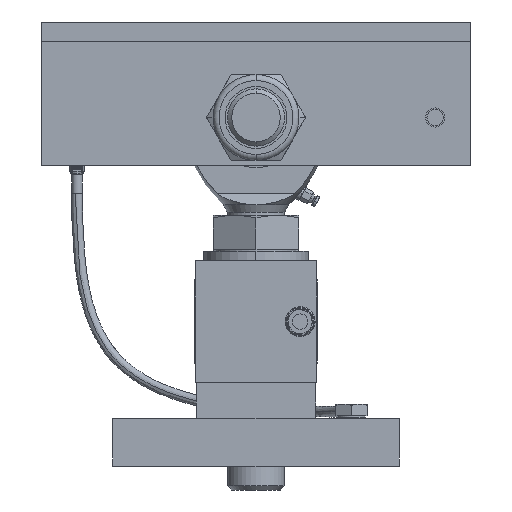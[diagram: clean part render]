
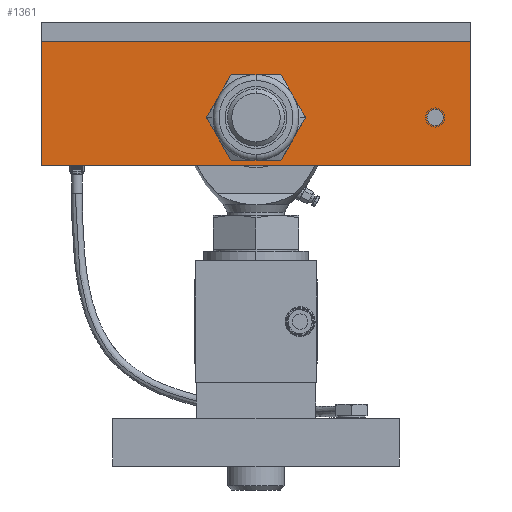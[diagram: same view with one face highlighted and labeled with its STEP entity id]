
A CAD part, front view. The second image highlights one B-rep face of the part: STEP entity #1361.
In plain terms, the highlighted planar face has unit normal (0, -1, 0).
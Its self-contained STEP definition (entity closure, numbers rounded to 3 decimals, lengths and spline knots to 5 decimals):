
#1361=ADVANCED_FACE('154:5',(#2255,#2256,#2257),#2258,.T.);
#2255=FACE_BOUND('',#9985,.T.);
#2256=FACE_BOUND('',#9986,.T.);
#2257=FACE_OUTER_BOUND('',#9987,.T.);
#2258=PLANE('',#9988);
#9985=EDGE_LOOP('',(#12439,#12440));
#9986=EDGE_LOOP('',(#12441,#12442));
#9987=EDGE_LOOP('',(#12443,#12444,#12445,#12446));
#9988=AXIS2_PLACEMENT_3D('',#12447,#12448,#12449);
#12439=ORIENTED_EDGE('',*,*,#15359,.F.);
#12440=ORIENTED_EDGE('',*,*,#15380,.F.);
#12441=ORIENTED_EDGE('',*,*,#15363,.T.);
#12442=ORIENTED_EDGE('',*,*,#15381,.T.);
#12443=ORIENTED_EDGE('',*,*,#15375,.T.);
#12444=ORIENTED_EDGE('',*,*,#15382,.F.);
#12445=ORIENTED_EDGE('',*,*,#15383,.F.);
#12446=ORIENTED_EDGE('',*,*,#15384,.T.);
#12447=CARTESIAN_POINT('',(0.0,-0.004,0.0));
#12448=DIRECTION('',(0.0,-1.0,0.0));
#12449=DIRECTION('',(1.0,0.0,-0.0));
#15359=EDGE_CURVE('154:14',#17196,#17192,#17198,.T.);
#15363=EDGE_CURVE('152:295',#17200,#17204,#17206,.T.);
#15375=EDGE_CURVE('151:863',#17226,#17227,#17228,.T.);
#15380=EDGE_CURVE('154:14',#17192,#17196,#17235,.T.);
#15381=EDGE_CURVE('152:295',#17204,#17200,#17236,.T.);
#15382=EDGE_CURVE('150:566',#17237,#17227,#17238,.T.);
#15383=EDGE_CURVE('149:929',#17239,#17237,#17240,.T.);
#15384=EDGE_CURVE('150:556',#17239,#17226,#17241,.T.);
#17192=VERTEX_POINT('',#20797);
#17196=VERTEX_POINT('',#20802);
#17198=CIRCLE('',#20805,0.0125);
#17200=VERTEX_POINT('',#20807);
#17204=VERTEX_POINT('',#20812);
#17206=CIRCLE('',#20815,0.0034);
#17226=VERTEX_POINT('',#20841);
#17227=VERTEX_POINT('',#20842);
#17228=LINE('',#20843,#20844);
#17235=CIRCLE('',#20854,0.0125);
#17236=CIRCLE('',#20855,0.0034);
#17237=VERTEX_POINT('',#20856);
#17238=LINE('',#20857,#20858);
#17239=VERTEX_POINT('',#20859);
#17240=LINE('',#20860,#20861);
#17241=LINE('',#20862,#20863);
#20797=CARTESIAN_POINT('',(0.0125,-0.004,0.02));
#20802=CARTESIAN_POINT('',(-0.0125,-0.004,0.02));
#20805=AXIS2_PLACEMENT_3D('',#23890,#23891,#23892);
#20807=CARTESIAN_POINT('',(0.0716,-0.004,0.02));
#20812=CARTESIAN_POINT('',(0.0784,-0.004,0.02));
#20815=AXIS2_PLACEMENT_3D('',#23898,#23899,#23900);
#20841=CARTESIAN_POINT('',(0.09,-0.004,0.052));
#20842=CARTESIAN_POINT('',(-0.09,-0.004,0.052));
#20843=CARTESIAN_POINT('',(0.09,-0.004,0.052));
#20844=VECTOR('',#23922,1.0);
#20854=AXIS2_PLACEMENT_3D('',#23929,#23930,#23931);
#20855=AXIS2_PLACEMENT_3D('',#23932,#23933,#23934);
#20856=CARTESIAN_POINT('',(-0.09,-0.004,0.0));
#20857=CARTESIAN_POINT('',(-0.09,-0.004,0.0));
#20858=VECTOR('',#23935,1.0);
#20859=CARTESIAN_POINT('',(0.09,-0.004,0.0));
#20860=CARTESIAN_POINT('',(0.09,-0.004,0.0));
#20861=VECTOR('',#23936,1.0);
#20862=CARTESIAN_POINT('',(0.09,-0.004,0.0));
#20863=VECTOR('',#23937,1.0);
#23890=CARTESIAN_POINT('',(0.0,-0.004,0.02));
#23891=DIRECTION('',(0.0,-1.0,0.0));
#23892=DIRECTION('',(1.0,0.0,0.0));
#23898=CARTESIAN_POINT('',(0.075,-0.004,0.02));
#23899=DIRECTION('',(0.0,1.0,-0.0));
#23900=DIRECTION('',(-1.0,0.0,0.0));
#23922=DIRECTION('',(-1.0,0.0,0.0));
#23929=CARTESIAN_POINT('',(0.0,-0.004,0.02));
#23930=DIRECTION('',(0.0,-1.0,0.0));
#23931=DIRECTION('',(1.0,0.0,0.0));
#23932=CARTESIAN_POINT('',(0.075,-0.004,0.02));
#23933=DIRECTION('',(0.0,1.0,-0.0));
#23934=DIRECTION('',(-1.0,0.0,0.0));
#23935=DIRECTION('',(0.0,0.0,1.0));
#23936=DIRECTION('',(-1.0,0.0,0.0));
#23937=DIRECTION('',(0.0,0.0,1.0));
